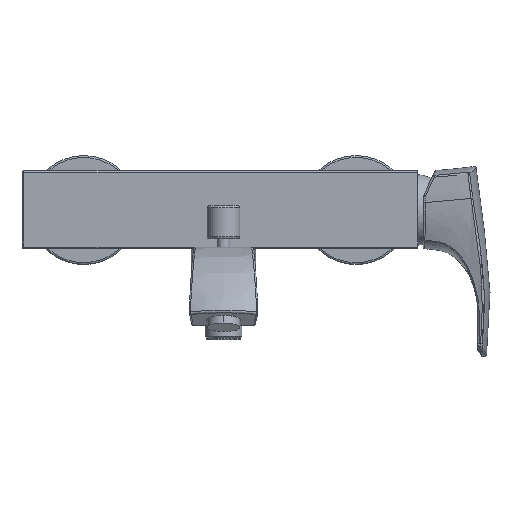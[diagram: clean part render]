
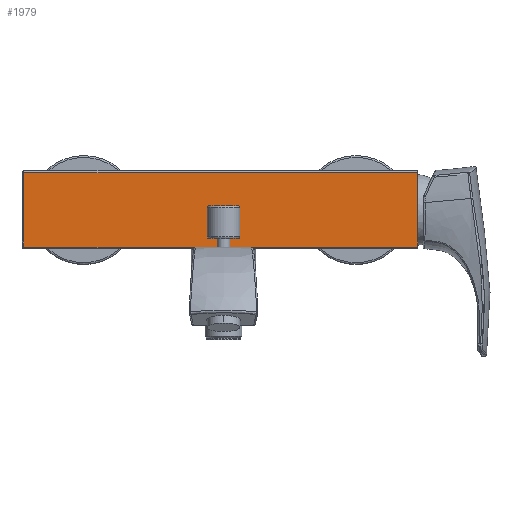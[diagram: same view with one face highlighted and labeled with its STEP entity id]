
A CAD part, top view. The second image highlights one B-rep face of the part: STEP entity #1979.
In plain terms, the highlighted planar face has unit normal (0, 0, 1).
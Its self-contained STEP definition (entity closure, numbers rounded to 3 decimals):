
#1979=ADVANCED_FACE('',(#11577),#11579,.T.);
#11577=FACE_BOUND('',#11578,.T.);
#11578=EDGE_LOOP('',(#14274,#14275,#14276,#14277));
#11579=PLANE('',#11580);
#11580=AXIS2_PLACEMENT_3D('',#11581,#11582,#11583);
#11581=CARTESIAN_POINT('',(0.,40.463,19.8));
#11582=DIRECTION('',(0.,0.,1.));
#11583=DIRECTION('',(0.,-1.,0.));
#14274=ORIENTED_EDGE('',*,*,#15375,.T.);
#14275=ORIENTED_EDGE('',*,*,#15380,.F.);
#14276=ORIENTED_EDGE('',*,*,#15647,.T.);
#14277=ORIENTED_EDGE('',*,*,#15649,.T.);
#15375=EDGE_CURVE('',#16454,#16452,#16455,.T.);
#15380=EDGE_CURVE('',#16462,#16452,#16463,.T.);
#15647=EDGE_CURVE('',#16462,#16901,#16904,.T.);
#15649=EDGE_CURVE('',#16901,#16454,#16906,.T.);
#16452=VERTEX_POINT('',#19102);
#16454=VERTEX_POINT('',#19107);
#16455=LINE('',#19108,#19109);
#16462=VERTEX_POINT('',#19128);
#16463=LINE('',#19129,#19130);
#16901=VERTEX_POINT('',#21552);
#16904=LINE('',#21561,#21562);
#16906=LINE('',#21568,#21569);
#19102=CARTESIAN_POINT('',(-20.5,38.963,19.8));
#19107=CARTESIAN_POINT('',(20.5,38.963,19.8));
#19108=CARTESIAN_POINT('',(20.5,38.963,19.8));
#19109=VECTOR('',#19110,1.);
#19110=DIRECTION('',(-1.,0.,0.));
#19128=CARTESIAN_POINT('',(-20.5,-178.037,19.8));
#19129=CARTESIAN_POINT('',(-20.5,-178.037,19.8));
#19130=VECTOR('',#19131,1.);
#19131=DIRECTION('',(0.,1.,0.));
#21552=CARTESIAN_POINT('',(20.5,-178.037,19.8));
#21561=CARTESIAN_POINT('',(-20.5,-178.037,19.8));
#21562=VECTOR('',#21563,1.);
#21563=DIRECTION('',(1.,0.,0.));
#21568=CARTESIAN_POINT('',(20.5,-178.037,19.8));
#21569=VECTOR('',#21570,1.);
#21570=DIRECTION('',(0.,1.,0.));
